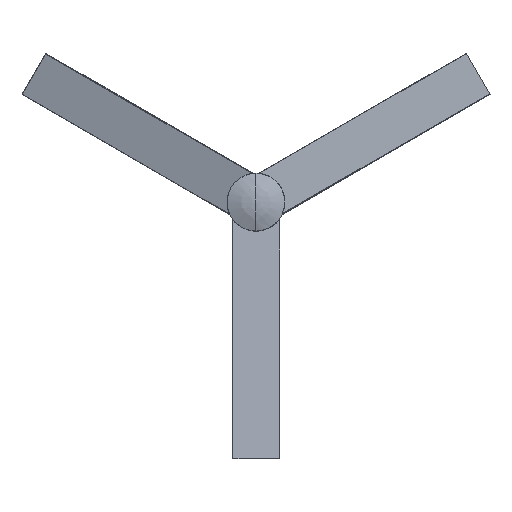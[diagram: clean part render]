
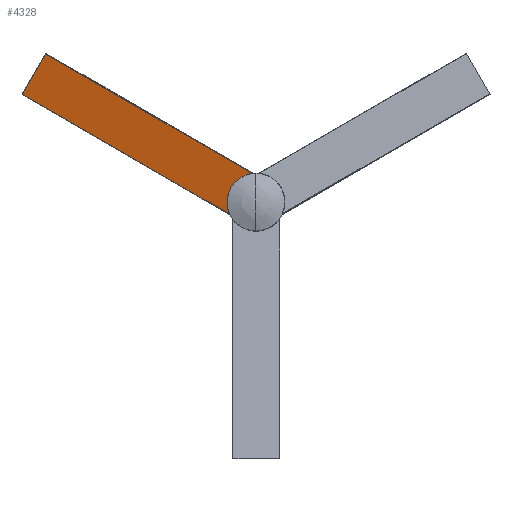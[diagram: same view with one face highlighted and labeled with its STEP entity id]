
A CAD part, top view. The second image highlights one B-rep face of the part: STEP entity #4328.
In plain terms, the highlighted planar face has unit normal (-0.113, -0.195, 0.974).
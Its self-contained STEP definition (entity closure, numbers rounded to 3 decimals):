
#203=FACE_BOUND('',#616,.T.);
#204=FACE_BOUND('',#617,.T.);
#205=FACE_BOUND('',#618,.T.);
#235=PLANE('',#4596);
#369=FACE_OUTER_BOUND('',#615,.T.);
#615=EDGE_LOOP('',(#2942,#2943,#2944,#2945,#2946,#2947));
#616=EDGE_LOOP('',(#2948,#2949));
#617=EDGE_LOOP('',(#2950,#2951));
#618=EDGE_LOOP('',(#2952,#2953));
#877=CIRCLE('',#4568,53.78);
#879=CIRCLE('',#4571,2.5);
#882=CIRCLE('',#4575,2.5);
#883=CIRCLE('',#4577,2.5);
#886=CIRCLE('',#4581,2.5);
#887=CIRCLE('',#4583,2.5);
#890=CIRCLE('',#4587,2.5);
#1088=LINE('',#6405,#1445);
#1089=LINE('',#6409,#1446);
#1090=LINE('',#6411,#1447);
#1091=LINE('',#6412,#1448);
#1092=LINE('',#6413,#1449);
#1445=VECTOR('',#5112,304.8);
#1446=VECTOR('',#5117,304.8);
#1447=VECTOR('',#5118,304.8);
#1448=VECTOR('',#5119,304.8);
#1449=VECTOR('',#5120,304.8);
#1785=VERTEX_POINT('',#6335);
#1787=VERTEX_POINT('',#6338);
#1789=VERTEX_POINT('',#6344);
#1791=VERTEX_POINT('',#6347);
#1793=VERTEX_POINT('',#6356);
#1795=VERTEX_POINT('',#6359);
#1797=VERTEX_POINT('',#6368);
#1799=VERTEX_POINT('',#6371);
#1809=VERTEX_POINT('',#6402);
#1810=VERTEX_POINT('',#6404);
#1811=VERTEX_POINT('',#6408);
#1812=VERTEX_POINT('',#6410);
#2216=EDGE_CURVE('',#1787,#1785,#877,.T.);
#2220=EDGE_CURVE('',#1791,#1789,#879,.T.);
#2224=EDGE_CURVE('',#1789,#1791,#882,.T.);
#2226=EDGE_CURVE('',#1795,#1793,#883,.T.);
#2230=EDGE_CURVE('',#1793,#1795,#886,.T.);
#2232=EDGE_CURVE('',#1799,#1797,#887,.T.);
#2236=EDGE_CURVE('',#1797,#1799,#890,.T.);
#2249=EDGE_CURVE('',#1810,#1809,#1088,.T.);
#2251=EDGE_CURVE('',#1811,#1809,#1089,.T.);
#2252=EDGE_CURVE('',#1812,#1811,#1090,.T.);
#2253=EDGE_CURVE('',#1787,#1812,#1091,.T.);
#2254=EDGE_CURVE('',#1810,#1785,#1092,.T.);
#2942=ORIENTED_EDGE('',*,*,#2251,.F.);
#2943=ORIENTED_EDGE('',*,*,#2252,.F.);
#2944=ORIENTED_EDGE('',*,*,#2253,.F.);
#2945=ORIENTED_EDGE('',*,*,#2216,.T.);
#2946=ORIENTED_EDGE('',*,*,#2254,.F.);
#2947=ORIENTED_EDGE('',*,*,#2249,.T.);
#2948=ORIENTED_EDGE('',*,*,#2236,.T.);
#2949=ORIENTED_EDGE('',*,*,#2232,.T.);
#2950=ORIENTED_EDGE('',*,*,#2230,.T.);
#2951=ORIENTED_EDGE('',*,*,#2226,.T.);
#2952=ORIENTED_EDGE('',*,*,#2224,.T.);
#2953=ORIENTED_EDGE('',*,*,#2220,.T.);
#4328=ADVANCED_FACE('',(#369,#203,#204,#205),#235,.T.);
#4568=AXIS2_PLACEMENT_3D('',#6339,#5042,#5043);
#4571=AXIS2_PLACEMENT_3D('',#6348,#5050,#5051);
#4575=AXIS2_PLACEMENT_3D('',#6354,#5059,#5060);
#4577=AXIS2_PLACEMENT_3D('',#6360,#5064,#5065);
#4581=AXIS2_PLACEMENT_3D('',#6366,#5073,#5074);
#4583=AXIS2_PLACEMENT_3D('',#6372,#5078,#5079);
#4587=AXIS2_PLACEMENT_3D('',#6378,#5087,#5088);
#4596=AXIS2_PLACEMENT_3D('',#6407,#5115,#5116);
#5042=DIRECTION('center_axis',(0.112,0.195,-0.974));
#5043=DIRECTION('ref_axis',(-0.487,-0.844,-0.225));
#5050=DIRECTION('center_axis',(0.112,0.195,-0.974));
#5051=DIRECTION('ref_axis',(-0.487,-0.844,-0.225));
#5059=DIRECTION('center_axis',(0.112,0.195,-0.974));
#5060=DIRECTION('ref_axis',(-0.487,-0.844,-0.225));
#5064=DIRECTION('center_axis',(0.112,0.195,-0.974));
#5065=DIRECTION('ref_axis',(-0.487,-0.844,-0.225));
#5073=DIRECTION('center_axis',(0.112,0.195,-0.974));
#5074=DIRECTION('ref_axis',(-0.487,-0.844,-0.225));
#5078=DIRECTION('center_axis',(0.112,0.195,-0.974));
#5079=DIRECTION('ref_axis',(-0.487,-0.844,-0.225));
#5087=DIRECTION('center_axis',(0.112,0.195,-0.974));
#5088=DIRECTION('ref_axis',(-0.487,-0.844,-0.225));
#5112=DIRECTION('',(-0.866,0.5,0.));
#5115=DIRECTION('center_axis',(-0.112,-0.195,0.974));
#5116=DIRECTION('ref_axis',(0.866,-0.5,0.));
#5117=DIRECTION('',(0.487,0.844,0.225));
#5118=DIRECTION('',(-0.866,0.5,0.));
#5119=DIRECTION('',(-0.487,-0.844,-0.225));
#5120=DIRECTION('',(-0.487,-0.844,-0.225));
#6335=CARTESIAN_POINT('',(-4.264,52.614,207.893));
#6338=CARTESIAN_POINT('',(-49.207,-25.229,187.141));
#6339=CARTESIAN_POINT('Origin',(-2.786,-0.135,197.517));
#6344=CARTESIAN_POINT('',(-65.614,-19.076,186.478));
#6347=CARTESIAN_POINT('',(-63.178,-14.857,187.603));
#6348=CARTESIAN_POINT('Origin',(-64.396,-16.967,187.04));
#6354=CARTESIAN_POINT('Origin',(-64.396,-16.967,187.04));
#6356=CARTESIAN_POINT('',(-60.136,29.865,196.895));
#6359=CARTESIAN_POINT('',(-57.7,34.084,198.02));
#6360=CARTESIAN_POINT('Origin',(-58.918,31.974,197.458));
#6366=CARTESIAN_POINT('Origin',(-58.918,31.974,197.458));
#6368=CARTESIAN_POINT('',(-20.447,58.91,207.284));
#6371=CARTESIAN_POINT('',(-18.011,63.129,208.409));
#6372=CARTESIAN_POINT('Origin',(-19.229,61.019,207.846));
#6378=CARTESIAN_POINT('Origin',(-19.229,61.019,207.846));
#6402=CARTESIAN_POINT('',(-541.912,381.381,211.563));
#6404=CARTESIAN_POINT('',(3.684,66.381,211.563));
#6405=CARTESIAN_POINT('',(3.684,66.381,211.563));
#6407=CARTESIAN_POINT('Origin',(-601.836,277.59,183.894));
#6408=CARTESIAN_POINT('',(-601.836,277.59,183.894));
#6409=CARTESIAN_POINT('',(-601.836,277.59,183.894));
#6410=CARTESIAN_POINT('',(-56.24,-37.41,183.894));
#6411=CARTESIAN_POINT('',(-56.24,-37.41,183.894));
#6412=CARTESIAN_POINT('',(-49.207,-25.229,187.141));
#6413=CARTESIAN_POINT('',(3.684,66.381,211.563));
